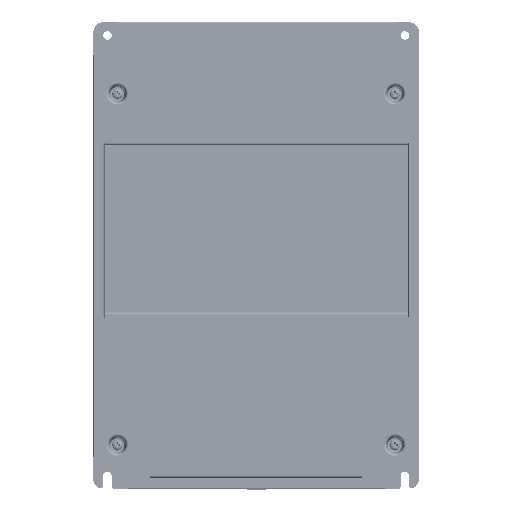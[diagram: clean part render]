
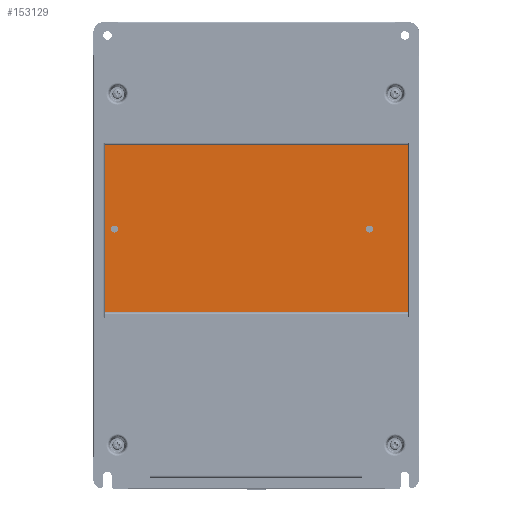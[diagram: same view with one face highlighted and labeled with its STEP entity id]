
A CAD part, front view. The second image highlights one B-rep face of the part: STEP entity #153129.
In plain terms, the highlighted planar face has unit normal (0, -1, 0) as drawn and (0, 0, 1) by its records, which use the part's own axes.
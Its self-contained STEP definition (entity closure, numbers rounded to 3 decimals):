
#150555=DIRECTION('',(1.,0.,0.));
#150556=VECTOR('',#150555,214.);
#150557=CARTESIAN_POINT('',(-107.,159.,-9.7));
#150558=LINE('',#150557,#150556);
#150567=CARTESIAN_POINT('',(100.1,100.2,-9.7));
#150568=DIRECTION('',(0.,0.,1.));
#150569=DIRECTION('',(-1.,0.,0.));
#150570=AXIS2_PLACEMENT_3D('',#150567,#150568,#150569);
#150572=CARTESIAN_POINT('',(100.1,100.2,-9.7));
#150573=DIRECTION('',(0.,0.,1.));
#150574=DIRECTION('',(1.,0.,0.));
#150575=AXIS2_PLACEMENT_3D('',#150572,#150573,#150574);
#150577=CARTESIAN_POINT('',(-80.1,100.2,-9.7));
#150578=DIRECTION('',(0.,0.,1.));
#150579=DIRECTION('',(-1.,0.,0.));
#150580=AXIS2_PLACEMENT_3D('',#150577,#150578,#150579);
#150582=CARTESIAN_POINT('',(-80.1,100.2,-9.7));
#150583=DIRECTION('',(0.,0.,1.));
#150584=DIRECTION('',(1.,0.,0.));
#150585=AXIS2_PLACEMENT_3D('',#150582,#150583,#150584);
#150587=DIRECTION('',(0.,1.,0.));
#150588=VECTOR('',#150587,118.);
#150589=CARTESIAN_POINT('',(107.,41.,-9.7));
#150590=LINE('',#150589,#150588);
#150591=DIRECTION('',(0.,1.,0.));
#150592=VECTOR('',#150591,118.);
#150593=CARTESIAN_POINT('',(-107.,41.,-9.7));
#150594=LINE('',#150593,#150592);
#151749=DIRECTION('',(1.,0.,0.));
#151750=VECTOR('',#151749,214.);
#151751=CARTESIAN_POINT('',(-107.,41.,-9.7));
#151752=LINE('',#151751,#151750);
#152040=CARTESIAN_POINT('',(107.,41.,-9.7));
#152042=VERTEX_POINT('',#152040);
#152044=CARTESIAN_POINT('',(-107.,41.,-9.7));
#152046=VERTEX_POINT('',#152044);
#152047=CARTESIAN_POINT('',(107.,159.,-9.7));
#152048=VERTEX_POINT('',#152047);
#152049=CARTESIAN_POINT('',(-107.,159.,-9.7));
#152050=VERTEX_POINT('',#152049);
#152111=CARTESIAN_POINT('',(97.6,100.2,-9.7));
#152112=CARTESIAN_POINT('',(102.6,100.2,-9.7));
#152113=VERTEX_POINT('',#152111);
#152114=VERTEX_POINT('',#152112);
#152115=CARTESIAN_POINT('',(-82.6,100.2,-9.7));
#152116=CARTESIAN_POINT('',(-77.6,100.2,-9.7));
#152117=VERTEX_POINT('',#152115);
#152118=VERTEX_POINT('',#152116);
#153103=CARTESIAN_POINT('',(110.,39.5,-9.7));
#153104=DIRECTION('',(0.,0.,1.));
#153105=DIRECTION('',(1.,0.,0.));
#153106=AXIS2_PLACEMENT_3D('',#153103,#153104,#153105);
#153107=PLANE('',#153106);
#153108=ORIENTED_EDGE('',*,*,#153094,.T.);
#153110=ORIENTED_EDGE('',*,*,#153109,.F.);
#153112=ORIENTED_EDGE('',*,*,#153111,.F.);
#153114=ORIENTED_EDGE('',*,*,#153113,.T.);
#153115=EDGE_LOOP('',(#153108,#153110,#153112,#153114));
#153116=FACE_OUTER_BOUND('',#153115,.F.);
#153118=ORIENTED_EDGE('',*,*,#153117,.T.);
#153120=ORIENTED_EDGE('',*,*,#153119,.T.);
#153121=EDGE_LOOP('',(#153118,#153120));
#153122=FACE_BOUND('',#153121,.F.);
#153124=ORIENTED_EDGE('',*,*,#153123,.T.);
#153126=ORIENTED_EDGE('',*,*,#153125,.T.);
#153127=EDGE_LOOP('',(#153124,#153126));
#153128=FACE_BOUND('',#153127,.F.);
#150571=CIRCLE('',#150570,2.5);
#150576=CIRCLE('',#150575,2.5);
#150581=CIRCLE('',#150580,2.5);
#150586=CIRCLE('',#150585,2.5);
#153094=EDGE_CURVE('',#152050,#152048,#150558,.T.);
#153109=EDGE_CURVE('',#152042,#152048,#150590,.T.);
#153111=EDGE_CURVE('',#152046,#152042,#151752,.T.);
#153113=EDGE_CURVE('',#152046,#152050,#150594,.T.);
#153117=EDGE_CURVE('',#152117,#152118,#150581,.T.);
#153119=EDGE_CURVE('',#152118,#152117,#150586,.T.);
#153123=EDGE_CURVE('',#152113,#152114,#150571,.T.);
#153125=EDGE_CURVE('',#152114,#152113,#150576,.T.);
#153129=ADVANCED_FACE('',(#153116,#153122,#153128),#153107,.T.);
